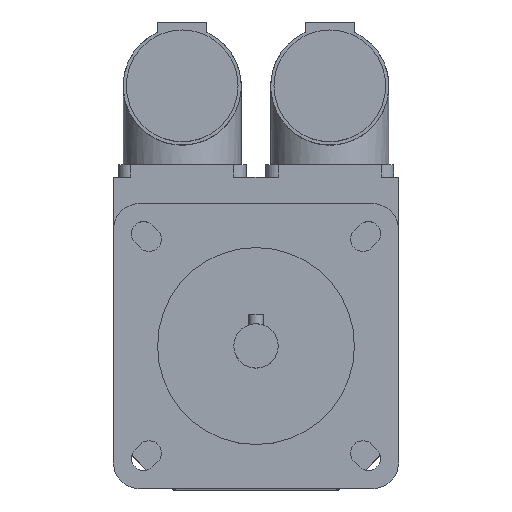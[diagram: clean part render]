
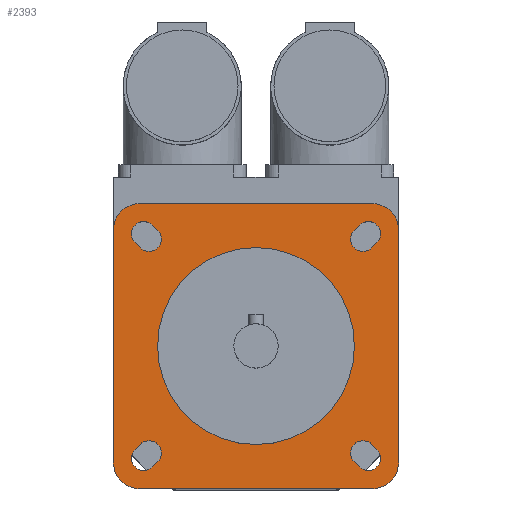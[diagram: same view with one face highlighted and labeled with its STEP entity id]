
A CAD part, top view. The second image highlights one B-rep face of the part: STEP entity #2393.
In plain terms, the highlighted planar face has unit normal (0, 0, 1).
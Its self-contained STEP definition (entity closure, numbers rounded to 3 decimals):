
#32=FACE_BOUND('',#432,.T.);
#33=FACE_BOUND('',#433,.T.);
#34=FACE_BOUND('',#434,.T.);
#35=FACE_BOUND('',#435,.T.);
#36=FACE_BOUND('',#436,.T.);
#51=CIRCLE('',#2486,20.);
#88=CIRCLE('',#2550,2.5);
#92=CIRCLE('',#2557,2.5);
#93=CIRCLE('',#2560,2.5);
#94=CIRCLE('',#2563,2.5);
#104=CIRCLE('',#2578,2.5);
#105=CIRCLE('',#2581,2.5);
#106=CIRCLE('',#2584,2.5);
#107=CIRCLE('',#2587,2.5);
#108=CIRCLE('',#2589,5.5);
#109=CIRCLE('',#2591,5.5);
#110=CIRCLE('',#2593,5.5);
#111=CIRCLE('',#2595,5.5);
#290=FACE_OUTER_BOUND('',#431,.T.);
#431=EDGE_LOOP('',(#1839,#1840,#1841,#1842,#1843,#1844,#1845,#1846));
#432=EDGE_LOOP('',(#1847));
#433=EDGE_LOOP('',(#1848,#1849,#1850,#1851));
#434=EDGE_LOOP('',(#1852,#1853,#1854,#1855));
#435=EDGE_LOOP('',(#1856,#1857,#1858,#1859));
#436=EDGE_LOOP('',(#1860,#1861,#1862,#1863));
#578=LINE('',#3719,#799);
#586=LINE('',#3743,#807);
#590=LINE('',#3753,#811);
#594=LINE('',#3763,#815);
#610=LINE('',#3814,#831);
#612=LINE('',#3820,#833);
#614=LINE('',#3826,#835);
#616=LINE('',#3832,#837);
#625=LINE('',#3860,#846);
#626=LINE('',#3861,#847);
#627=LINE('',#3862,#848);
#628=LINE('',#3863,#849);
#799=VECTOR('',#2944,1.5);
#807=VECTOR('',#2966,1.5);
#811=VECTOR('',#2976,1.5);
#815=VECTOR('',#2986,1.5);
#831=VECTOR('',#3032,1.5);
#833=VECTOR('',#3040,1.5);
#835=VECTOR('',#3048,1.5);
#837=VECTOR('',#3056,1.5);
#846=VECTOR('',#3087,47.);
#847=VECTOR('',#3088,47.);
#848=VECTOR('',#3089,47.);
#849=VECTOR('',#3090,47.);
#974=VERTEX_POINT('',#3540);
#1039=VERTEX_POINT('',#3716);
#1040=VERTEX_POINT('',#3718);
#1041=VERTEX_POINT('',#3722);
#1048=VERTEX_POINT('',#3740);
#1049=VERTEX_POINT('',#3742);
#1050=VERTEX_POINT('',#3746);
#1051=VERTEX_POINT('',#3750);
#1052=VERTEX_POINT('',#3752);
#1053=VERTEX_POINT('',#3756);
#1054=VERTEX_POINT('',#3760);
#1055=VERTEX_POINT('',#3762);
#1056=VERTEX_POINT('',#3766);
#1075=VERTEX_POINT('',#3812);
#1076=VERTEX_POINT('',#3818);
#1077=VERTEX_POINT('',#3824);
#1078=VERTEX_POINT('',#3830);
#1079=VERTEX_POINT('',#3836);
#1080=VERTEX_POINT('',#3838);
#1081=VERTEX_POINT('',#3842);
#1082=VERTEX_POINT('',#3844);
#1083=VERTEX_POINT('',#3848);
#1084=VERTEX_POINT('',#3850);
#1085=VERTEX_POINT('',#3854);
#1086=VERTEX_POINT('',#3856);
#1215=EDGE_CURVE('',#974,#974,#51,.T.);
#1301=EDGE_CURVE('',#1040,#1039,#578,.T.);
#1304=EDGE_CURVE('',#1039,#1041,#88,.T.);
#1313=EDGE_CURVE('',#1049,#1048,#586,.T.);
#1316=EDGE_CURVE('',#1048,#1050,#92,.T.);
#1318=EDGE_CURVE('',#1052,#1051,#590,.T.);
#1321=EDGE_CURVE('',#1051,#1053,#93,.T.);
#1323=EDGE_CURVE('',#1055,#1054,#594,.T.);
#1326=EDGE_CURVE('',#1054,#1056,#94,.T.);
#1349=EDGE_CURVE('',#1053,#1075,#610,.T.);
#1350=EDGE_CURVE('',#1075,#1052,#104,.T.);
#1352=EDGE_CURVE('',#1050,#1076,#612,.T.);
#1353=EDGE_CURVE('',#1076,#1049,#105,.T.);
#1355=EDGE_CURVE('',#1056,#1077,#614,.T.);
#1356=EDGE_CURVE('',#1077,#1055,#106,.T.);
#1358=EDGE_CURVE('',#1041,#1078,#616,.T.);
#1359=EDGE_CURVE('',#1078,#1040,#107,.T.);
#1361=EDGE_CURVE('',#1080,#1079,#108,.T.);
#1364=EDGE_CURVE('',#1082,#1081,#109,.T.);
#1367=EDGE_CURVE('',#1084,#1083,#110,.T.);
#1370=EDGE_CURVE('',#1086,#1085,#111,.T.);
#1372=EDGE_CURVE('',#1079,#1086,#625,.T.);
#1373=EDGE_CURVE('',#1085,#1084,#626,.T.);
#1374=EDGE_CURVE('',#1083,#1082,#627,.T.);
#1375=EDGE_CURVE('',#1081,#1080,#628,.T.);
#1839=ORIENTED_EDGE('',*,*,#1372,.T.);
#1840=ORIENTED_EDGE('',*,*,#1370,.T.);
#1841=ORIENTED_EDGE('',*,*,#1373,.T.);
#1842=ORIENTED_EDGE('',*,*,#1367,.T.);
#1843=ORIENTED_EDGE('',*,*,#1374,.T.);
#1844=ORIENTED_EDGE('',*,*,#1364,.T.);
#1845=ORIENTED_EDGE('',*,*,#1375,.T.);
#1846=ORIENTED_EDGE('',*,*,#1361,.T.);
#1847=ORIENTED_EDGE('',*,*,#1215,.T.);
#1848=ORIENTED_EDGE('',*,*,#1349,.T.);
#1849=ORIENTED_EDGE('',*,*,#1350,.T.);
#1850=ORIENTED_EDGE('',*,*,#1318,.T.);
#1851=ORIENTED_EDGE('',*,*,#1321,.T.);
#1852=ORIENTED_EDGE('',*,*,#1352,.T.);
#1853=ORIENTED_EDGE('',*,*,#1353,.T.);
#1854=ORIENTED_EDGE('',*,*,#1313,.T.);
#1855=ORIENTED_EDGE('',*,*,#1316,.T.);
#1856=ORIENTED_EDGE('',*,*,#1355,.T.);
#1857=ORIENTED_EDGE('',*,*,#1356,.T.);
#1858=ORIENTED_EDGE('',*,*,#1323,.T.);
#1859=ORIENTED_EDGE('',*,*,#1326,.T.);
#1860=ORIENTED_EDGE('',*,*,#1358,.T.);
#1861=ORIENTED_EDGE('',*,*,#1359,.T.);
#1862=ORIENTED_EDGE('',*,*,#1301,.T.);
#1863=ORIENTED_EDGE('',*,*,#1304,.T.);
#2297=PLANE('',#2596);
#2393=ADVANCED_FACE('',(#290,#32,#33,#34,#35,#36),#2297,.T.);
#2486=AXIS2_PLACEMENT_3D('',#3541,#2769,#2770);
#2550=AXIS2_PLACEMENT_3D('',#3724,#2949,#2950);
#2557=AXIS2_PLACEMENT_3D('',#3748,#2971,#2972);
#2560=AXIS2_PLACEMENT_3D('',#3758,#2981,#2982);
#2563=AXIS2_PLACEMENT_3D('',#3768,#2991,#2992);
#2578=AXIS2_PLACEMENT_3D('',#3816,#3035,#3036);
#2581=AXIS2_PLACEMENT_3D('',#3822,#3043,#3044);
#2584=AXIS2_PLACEMENT_3D('',#3828,#3051,#3052);
#2587=AXIS2_PLACEMENT_3D('',#3834,#3059,#3060);
#2589=AXIS2_PLACEMENT_3D('',#3839,#3064,#3065);
#2591=AXIS2_PLACEMENT_3D('',#3845,#3070,#3071);
#2593=AXIS2_PLACEMENT_3D('',#3851,#3076,#3077);
#2595=AXIS2_PLACEMENT_3D('',#3857,#3082,#3083);
#2596=AXIS2_PLACEMENT_3D('',#3859,#3085,#3086);
#2769=DIRECTION('center_axis',(0.,0.,-1.));
#2770=DIRECTION('ref_axis',(-1.,0.,0.));
#2944=DIRECTION('',(-0.707,-0.707,0.));
#2949=DIRECTION('center_axis',(0.,0.,-1.));
#2950=DIRECTION('ref_axis',(0.707,-0.707,0.));
#2966=DIRECTION('',(-0.707,0.707,0.));
#2971=DIRECTION('center_axis',(0.,0.,-1.));
#2972=DIRECTION('ref_axis',(-0.707,-0.707,0.));
#2976=DIRECTION('',(-0.707,-0.707,0.));
#2981=DIRECTION('center_axis',(0.,0.,-1.));
#2982=DIRECTION('ref_axis',(0.707,-0.707,0.));
#2986=DIRECTION('',(-0.707,0.707,0.));
#2991=DIRECTION('center_axis',(0.,0.,-1.));
#2992=DIRECTION('ref_axis',(-0.707,-0.707,0.));
#3032=DIRECTION('',(0.707,0.707,0.));
#3035=DIRECTION('center_axis',(0.,0.,-1.));
#3036=DIRECTION('ref_axis',(-0.707,0.707,0.));
#3040=DIRECTION('',(0.707,-0.707,0.));
#3043=DIRECTION('center_axis',(0.,0.,-1.));
#3044=DIRECTION('ref_axis',(0.707,0.707,0.));
#3048=DIRECTION('',(0.707,-0.707,0.));
#3051=DIRECTION('center_axis',(0.,0.,-1.));
#3052=DIRECTION('ref_axis',(0.707,0.707,0.));
#3056=DIRECTION('',(0.707,0.707,0.));
#3059=DIRECTION('center_axis',(0.,0.,-1.));
#3060=DIRECTION('ref_axis',(-0.707,0.707,0.));
#3064=DIRECTION('center_axis',(0.,0.,1.));
#3065=DIRECTION('ref_axis',(1.,0.,0.));
#3070=DIRECTION('center_axis',(0.,0.,1.));
#3071=DIRECTION('ref_axis',(0.,-1.,0.));
#3076=DIRECTION('center_axis',(0.,0.,1.));
#3077=DIRECTION('ref_axis',(-1.,0.,0.));
#3082=DIRECTION('center_axis',(0.,0.,1.));
#3083=DIRECTION('ref_axis',(0.,1.,0.));
#3085=DIRECTION('center_axis',(0.,0.,1.));
#3086=DIRECTION('ref_axis',(1.,0.,0.));
#3087=DIRECTION('',(-1.,0.,0.));
#3088=DIRECTION('',(0.,-1.,0.));
#3089=DIRECTION('',(1.,0.,0.));
#3090=DIRECTION('',(0.,1.,0.));
#3540=CARTESIAN_POINT('',(20.,0.,104.5));
#3541=CARTESIAN_POINT('Origin',(0.,0.,104.5));
#3716=CARTESIAN_POINT('',(-21.036,-24.572,104.5));
#3718=CARTESIAN_POINT('',(-19.976,-23.511,104.5));
#3719=CARTESIAN_POINT('',(-9.634,-13.17,104.5));
#3722=CARTESIAN_POINT('',(-24.572,-21.036,104.5));
#3724=CARTESIAN_POINT('Origin',(-22.804,-22.804,104.5));
#3740=CARTESIAN_POINT('',(-24.572,21.036,104.5));
#3742=CARTESIAN_POINT('',(-23.511,19.976,104.5));
#3743=CARTESIAN_POINT('',(-13.17,9.634,104.5));
#3746=CARTESIAN_POINT('',(-21.036,24.572,104.5));
#3748=CARTESIAN_POINT('Origin',(-22.804,22.804,104.5));
#3750=CARTESIAN_POINT('',(23.511,19.976,104.5));
#3752=CARTESIAN_POINT('',(24.572,21.036,104.5));
#3753=CARTESIAN_POINT('',(12.64,9.104,104.5));
#3756=CARTESIAN_POINT('',(19.976,23.511,104.5));
#3758=CARTESIAN_POINT('Origin',(21.744,21.744,104.5));
#3760=CARTESIAN_POINT('',(19.976,-23.511,104.5));
#3762=CARTESIAN_POINT('',(21.036,-24.572,104.5));
#3763=CARTESIAN_POINT('',(9.104,-12.64,104.5));
#3766=CARTESIAN_POINT('',(23.511,-19.976,104.5));
#3768=CARTESIAN_POINT('Origin',(21.744,-21.744,104.5));
#3812=CARTESIAN_POINT('',(21.036,24.572,104.5));
#3814=CARTESIAN_POINT('',(9.634,13.17,104.5));
#3816=CARTESIAN_POINT('Origin',(22.804,22.804,104.5));
#3818=CARTESIAN_POINT('',(-19.976,23.511,104.5));
#3820=CARTESIAN_POINT('',(-9.104,12.64,104.5));
#3822=CARTESIAN_POINT('Origin',(-21.744,21.744,104.5));
#3824=CARTESIAN_POINT('',(24.572,-21.036,104.5));
#3826=CARTESIAN_POINT('',(13.17,-9.634,104.5));
#3828=CARTESIAN_POINT('Origin',(22.804,-22.804,104.5));
#3830=CARTESIAN_POINT('',(-23.511,-19.976,104.5));
#3832=CARTESIAN_POINT('',(-12.64,-9.104,104.5));
#3834=CARTESIAN_POINT('Origin',(-21.744,-21.744,104.5));
#3836=CARTESIAN_POINT('',(23.5,29.,104.5));
#3838=CARTESIAN_POINT('',(29.,23.5,104.5));
#3839=CARTESIAN_POINT('Origin',(23.5,23.5,104.5));
#3842=CARTESIAN_POINT('',(29.,-23.5,104.5));
#3844=CARTESIAN_POINT('',(23.5,-29.,104.5));
#3845=CARTESIAN_POINT('Origin',(23.5,-23.5,104.5));
#3848=CARTESIAN_POINT('',(-23.5,-29.,104.5));
#3850=CARTESIAN_POINT('',(-29.,-23.5,104.5));
#3851=CARTESIAN_POINT('Origin',(-23.5,-23.5,104.5));
#3854=CARTESIAN_POINT('',(-29.,23.5,104.5));
#3856=CARTESIAN_POINT('',(-23.5,29.,104.5));
#3857=CARTESIAN_POINT('Origin',(-23.5,23.5,104.5));
#3859=CARTESIAN_POINT('Origin',(0.,0.,
104.5));
#3860=CARTESIAN_POINT('',(23.5,29.,104.5));
#3861=CARTESIAN_POINT('',(-29.,23.5,104.5));
#3862=CARTESIAN_POINT('',(-23.5,-29.,104.5));
#3863=CARTESIAN_POINT('',(29.,-23.5,104.5));
